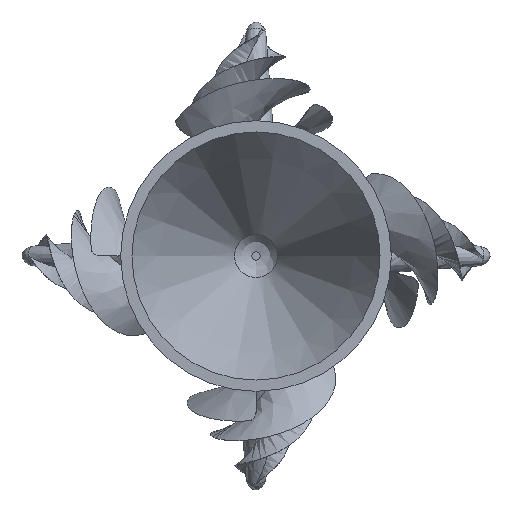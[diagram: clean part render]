
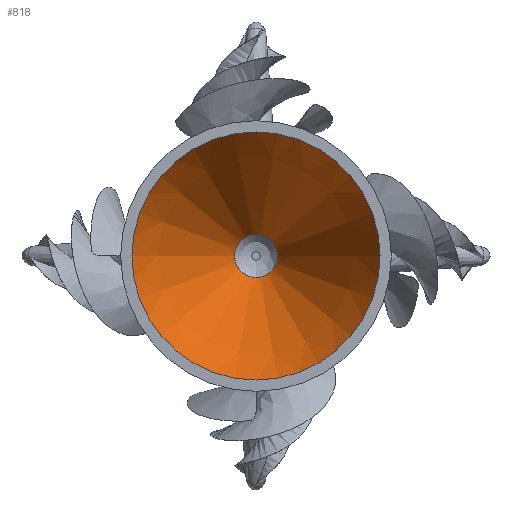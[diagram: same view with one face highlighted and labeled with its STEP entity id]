
A CAD part, front view. The second image highlights one B-rep face of the part: STEP entity #818.
In plain terms, the highlighted conical face has half-angle 28.811 degrees and reference radius 23.995 mm.
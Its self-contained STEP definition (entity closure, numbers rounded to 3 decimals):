
#156=LINE('',#1283,#175);
#175=VECTOR('',#1044,27.5);
#194=CONICAL_SURFACE('',#941,23.995,0.503);
#208=FACE_OUTER_BOUND('',#261,.T.);
#261=EDGE_LOOP('',(#584,#585,#586,#587,#588));
#328=CIRCLE('',#938,8.714);
#329=CIRCLE('',#939,8.714);
#330=CIRCLE('',#942,50.435);
#368=VERTEX_POINT('',#1275);
#369=VERTEX_POINT('',#1277);
#370=VERTEX_POINT('',#1282);
#454=EDGE_CURVE('',#368,#369,#328,.T.);
#455=EDGE_CURVE('',#369,#368,#329,.T.);
#456=EDGE_CURVE('',#369,#370,#156,.T.);
#457=EDGE_CURVE('',#370,#370,#330,.T.);
#584=ORIENTED_EDGE('',*,*,#455,.F.);
#585=ORIENTED_EDGE('',*,*,#456,.T.);
#586=ORIENTED_EDGE('',*,*,#457,.F.);
#587=ORIENTED_EDGE('',*,*,#456,.F.);
#588=ORIENTED_EDGE('',*,*,#454,.F.);
#818=ADVANCED_FACE('',(#208),#194,.F.);
#938=AXIS2_PLACEMENT_3D('',#1278,#1036,#1037);
#939=AXIS2_PLACEMENT_3D('',#1279,#1038,#1039);
#941=AXIS2_PLACEMENT_3D('',#1281,#1042,#1043);
#942=AXIS2_PLACEMENT_3D('',#1284,#1045,#1046);
#1036=DIRECTION('center_axis',(0.,-1.,0.));
#1037=DIRECTION('ref_axis',(1.,0.,0.));
#1038=DIRECTION('center_axis',(0.,-1.,0.));
#1039=DIRECTION('ref_axis',(1.,0.,0.));
#1042=DIRECTION('center_axis',(0.,-1.,0.));
#1043=DIRECTION('ref_axis',(1.,0.,0.));
#1044=DIRECTION('',(-0.482,-0.876,0.));
#1045=DIRECTION('center_axis',(0.,1.,0.));
#1046=DIRECTION('ref_axis',(1.,0.,0.));
#1275=CARTESIAN_POINT('',(0.,75.855,-8.714));
#1277=CARTESIAN_POINT('',(-8.714,75.855,0.));
#1278=CARTESIAN_POINT('Origin',(0.,75.855,0.));
#1279=CARTESIAN_POINT('Origin',(0.,75.855,0.));
#1281=CARTESIAN_POINT('Origin',(0.,48.072,0.));
#1282=CARTESIAN_POINT('',(-50.435,0.,0.));
#1283=CARTESIAN_POINT('',(-23.995,48.072,0.));
#1284=CARTESIAN_POINT('Origin',(0.,0.,0.));
